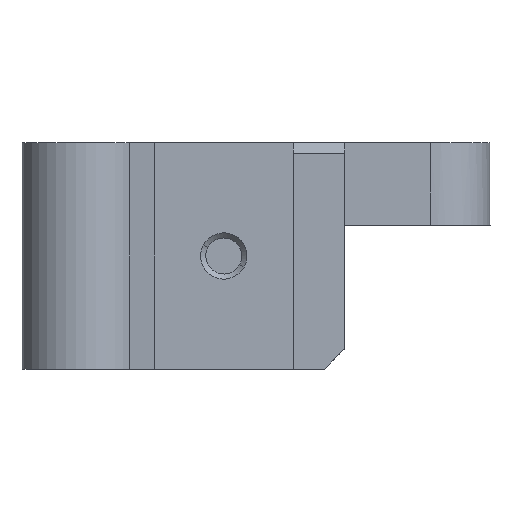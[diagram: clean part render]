
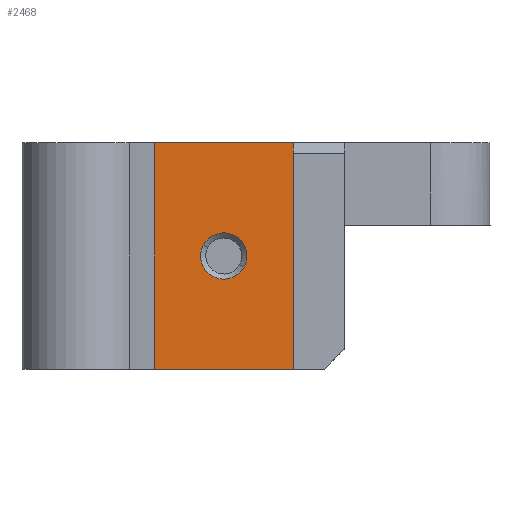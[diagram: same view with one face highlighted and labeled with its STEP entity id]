
A CAD part, front view. The second image highlights one B-rep face of the part: STEP entity #2468.
In plain terms, the highlighted planar face has unit normal (0, -1, 0).
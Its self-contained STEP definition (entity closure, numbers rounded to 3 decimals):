
#2432=AXIS2_PLACEMENT_3D('Plane Axis2P3D',#2429,#2430,#2431) ;
#2452=AXIS2_PLACEMENT_3D('Circle Axis2P3D',#2450,#2451,$) ;
#2461=AXIS2_PLACEMENT_3D('Circle Axis2P3D',#2459,#2460,$) ;
#436=CARTESIAN_POINT('Vertex',(20.64,-16.8,22.)) ;
#439=CARTESIAN_POINT('Line Origine',(20.64,-16.8,11.)) ;
#443=CARTESIAN_POINT('Vertex',(20.64,-16.8,0.)) ;
#1588=CARTESIAN_POINT('Vertex',(7.159,-16.8,0.)) ;
#1591=CARTESIAN_POINT('Line Origine',(7.159,-16.8,11.)) ;
#1595=CARTESIAN_POINT('Vertex',(7.159,-16.8,22.)) ;
#2429=CARTESIAN_POINT('Axis2P3D Location',(20.64,-16.8,22.)) ;
#2434=CARTESIAN_POINT('Line Origine',(13.9,-16.8,0.)) ;
#2439=CARTESIAN_POINT('Line Origine',(13.9,-16.8,22.)) ;
#2450=CARTESIAN_POINT('Axis2P3D Location',(13.88,-16.8,11.)) ;
#2454=CARTESIAN_POINT('Vertex',(11.905,-16.8,12.079)) ;
#2456=CARTESIAN_POINT('Vertex',(15.855,-16.8,9.921)) ;
#2459=CARTESIAN_POINT('Axis2P3D Location',(13.88,-16.8,11.)) ;
#440=DIRECTION('Vector Direction',(0.,0.,-1.)) ;
#1592=DIRECTION('Vector Direction',(0.,0.,-1.)) ;
#2430=DIRECTION('Axis2P3D Direction',(0.,-1.,0.)) ;
#2431=DIRECTION('Axis2P3D XDirection',(-1.,0.,0.)) ;
#2435=DIRECTION('Vector Direction',(-1.,0.,0.)) ;
#2440=DIRECTION('Vector Direction',(-1.,0.,0.)) ;
#2451=DIRECTION('Axis2P3D Direction',(0.,-1.,0.)) ;
#2460=DIRECTION('Axis2P3D Direction',(0.,-1.,0.)) ;
#441=VECTOR('Line Direction',#440,1.) ;
#1593=VECTOR('Line Direction',#1592,1.) ;
#2436=VECTOR('Line Direction',#2435,1.) ;
#2441=VECTOR('Line Direction',#2440,1.) ;
#2445=ORIENTED_EDGE('',*,*,#2438,.T.) ;
#2446=ORIENTED_EDGE('',*,*,#445,.F.) ;
#2447=ORIENTED_EDGE('',*,*,#2443,.F.) ;
#2448=ORIENTED_EDGE('',*,*,#1597,.T.) ;
#2465=ORIENTED_EDGE('',*,*,#2458,.F.) ;
#2466=ORIENTED_EDGE('',*,*,#2463,.F.) ;
#2467=FACE_BOUND('',#2464,.T.) ;
#2468=ADVANCED_FACE('Dadi',(#2449,#2467),#2433,.T.) ;
#2453=CIRCLE('generated circle',#2452,2.25) ;
#2462=CIRCLE('generated circle',#2461,2.25) ;
#445=EDGE_CURVE('',#437,#444,#442,.T.) ;
#1597=EDGE_CURVE('',#1596,#1589,#1594,.T.) ;
#2438=EDGE_CURVE('',#1589,#444,#2437,.F.) ;
#2443=EDGE_CURVE('',#1596,#437,#2442,.F.) ;
#2458=EDGE_CURVE('',#2455,#2457,#2453,.T.) ;
#2463=EDGE_CURVE('',#2457,#2455,#2462,.T.) ;
#2444=EDGE_LOOP('',(#2445,#2446,#2447,#2448)) ;
#2464=EDGE_LOOP('',(#2465,#2466)) ;
#2449=FACE_OUTER_BOUND('',#2444,.T.) ;
#442=LINE('Line',#439,#441) ;
#1594=LINE('Line',#1591,#1593) ;
#2437=LINE('Line',#2434,#2436) ;
#2442=LINE('Line',#2439,#2441) ;
#2433=PLANE('',#2432) ;
#437=VERTEX_POINT('',#436) ;
#444=VERTEX_POINT('',#443) ;
#1589=VERTEX_POINT('',#1588) ;
#1596=VERTEX_POINT('',#1595) ;
#2455=VERTEX_POINT('',#2454) ;
#2457=VERTEX_POINT('',#2456) ;
